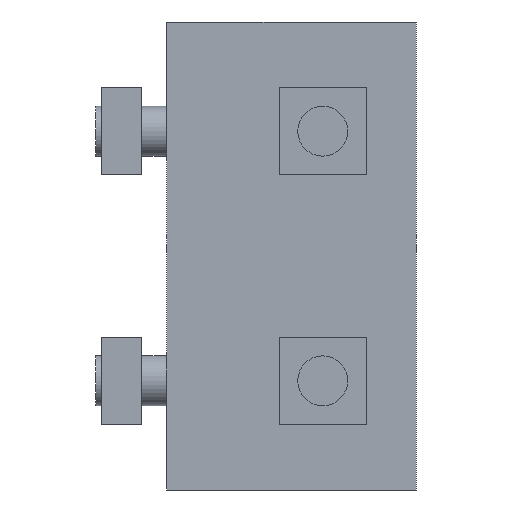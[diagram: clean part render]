
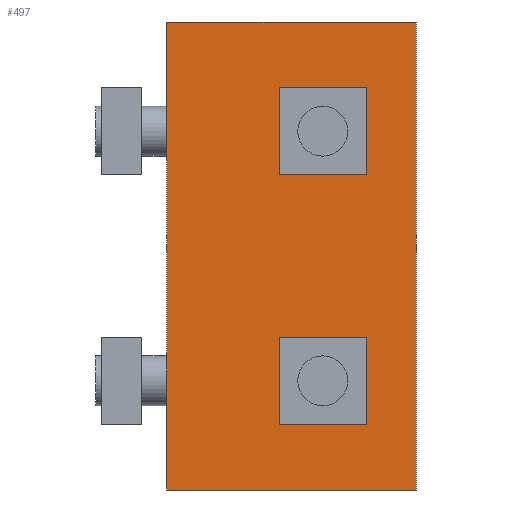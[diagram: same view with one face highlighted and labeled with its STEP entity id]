
A CAD part, front view. The second image highlights one B-rep face of the part: STEP entity #497.
In plain terms, the highlighted planar face has unit normal (0, -1, 0).
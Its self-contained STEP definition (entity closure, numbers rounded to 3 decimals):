
#193=CARTESIAN_POINT('',(29.5,0.,-20.));
#194=VERTEX_POINT('',#193);
#195=CARTESIAN_POINT('',(25.,0.0,-20.));
#196=DIRECTION('',(0.0,1.0,0.0));
#197=DIRECTION('',(1.0,0.0,0.0));
#198=AXIS2_PLACEMENT_3D('',#195,#196,#197);
#199=CIRCLE('',#198,4.5);
#200=EDGE_CURVE('',#194,#194,#199,.T.);
#291=CARTESIAN_POINT('',(29.5,0.,20.));
#292=VERTEX_POINT('',#291);
#293=CARTESIAN_POINT('',(25.,0.0,20.));
#294=DIRECTION('',(0.0,1.0,0.0));
#295=DIRECTION('',(1.0,0.0,0.0));
#296=AXIS2_PLACEMENT_3D('',#293,#294,#295);
#297=CIRCLE('',#296,4.5);
#298=EDGE_CURVE('',#292,#292,#297,.T.);
#342=CARTESIAN_POINT('',(40.,0.,-37.5));
#343=VERTEX_POINT('',#342);
#350=CARTESIAN_POINT('',(0.0,0.0,-37.5));
#351=VERTEX_POINT('',#350);
#352=CARTESIAN_POINT('',(0.0,0.0,-37.5));
#353=DIRECTION('',(1.0,0.0,0.0));
#354=VECTOR('',#353,40.);
#355=LINE('',#352,#354);
#356=EDGE_CURVE('',#351,#343,#355,.T.);
#449=CARTESIAN_POINT('',(40.,0.,37.5));
#450=VERTEX_POINT('',#449);
#457=CARTESIAN_POINT('',(40.,0.,37.5));
#458=DIRECTION('',(0.0,0.0,-1.0));
#459=VECTOR('',#458,75.);
#460=LINE('',#457,#459);
#461=EDGE_CURVE('',#450,#343,#460,.T.);
#468=CARTESIAN_POINT('',(40.,0.,0.0));
#469=DIRECTION('',(0.0,-1.0,0.0));
#470=DIRECTION('',(0.0,0.0,-1.0));
#471=AXIS2_PLACEMENT_3D('',#468,#469,#470);
#472=PLANE('',#471);
#473=CARTESIAN_POINT('',(0.0,0.0,37.5));
#474=VERTEX_POINT('',#473);
#475=CARTESIAN_POINT('',(40.,0.,37.5));
#476=DIRECTION('',(-1.0,0.0,0.0));
#477=VECTOR('',#476,40.);
#478=LINE('',#475,#477);
#479=EDGE_CURVE('',#450,#474,#478,.T.);
#480=ORIENTED_EDGE('',*,*,#479,.T.);
#481=CARTESIAN_POINT('',(0.0,0.0,37.5));
#482=DIRECTION('',(0.0,0.0,-1.0));
#483=VECTOR('',#482,75.);
#484=LINE('',#481,#483);
#485=EDGE_CURVE('',#474,#351,#484,.T.);
#486=ORIENTED_EDGE('',*,*,#485,.T.);
#487=ORIENTED_EDGE('',*,*,#356,.T.);
#488=ORIENTED_EDGE('',*,*,#461,.F.);
#489=EDGE_LOOP('',(#480,#486,#487,#488));
#490=FACE_OUTER_BOUND('',#489,.T.);
#491=ORIENTED_EDGE('',*,*,#200,.T.);
#492=EDGE_LOOP('',(#491));
#493=FACE_BOUND('',#492,.T.);
#494=ORIENTED_EDGE('',*,*,#298,.T.);
#495=EDGE_LOOP('',(#494));
#496=FACE_BOUND('',#495,.T.);
#497=ADVANCED_FACE('',(#490,#493,#496),#472,.T.);
